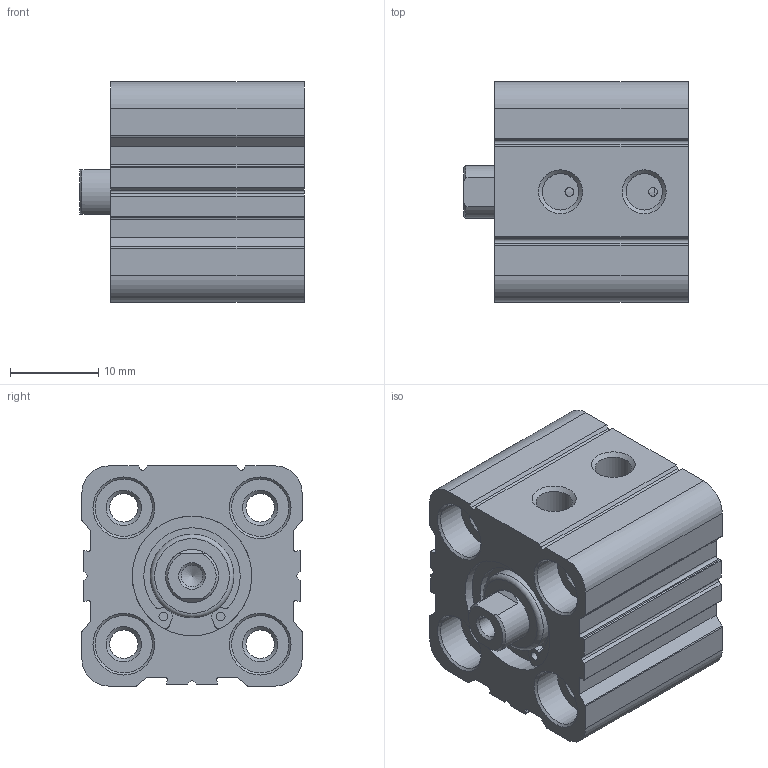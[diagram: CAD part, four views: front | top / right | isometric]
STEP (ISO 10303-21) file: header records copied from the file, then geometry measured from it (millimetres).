
FILE_DESCRIPTION(/* description */ ('Compact Cylinder'),/* implementation_level */ '2;1');
FILE_NAME(/* name */ 'K:\Siłowniki\AirTac\DSK012.0005.01\DSK012.0005.01.stp',/* time_stamp */ '2014-09-10T11:03:23+02:00',/* author */ ('Praktykant1'),/* organization */ ('PNEUMAT SYSTEM'),/* preprocessor_version */ 'ST-DEVELOPER v15.6',/* originating_system */ 'Autodesk Inventor 2015',/* authorisation */ '');
FILE_SCHEMA (('AUTOMOTIVE_DESIGN { 1 0 10303 214 3 1 1 }'));
Length unit declared in the file: millimetre
Products named in the file (3): DSK012.0005.01 b; DSK012.0005.01 r; DSK012.0005.01
Bounding box: 25.5 x 25 x 25 mm (x, y, z)
Volume: 10788.2 mm3; surface area: 6400 mm2
Topology: 2 solids, 2 shells, 167 faces, 411 edges, 265 vertices
Faces by surface type: plane 75, cylinder 64, cone 23, torus 5
Full cylindrical faces by diameter (mm): 1 x4, 2.459 x1, 3.242 x4, 4.134 x2, 6 x2, 6.5 x8, 7.4 x1, 9.5 x1, 9.6 x1, 12 x3, 13.6 x1
Entity records: 4756 total; most frequent: CARTESIAN_POINT 851, DIRECTION 846, ORIENTED_EDGE 696, EDGE_CURVE 348, AXIS2_PLACEMENT_3D 332, VERTEX_POINT 257, EDGE_LOOP 251, LINE 182
